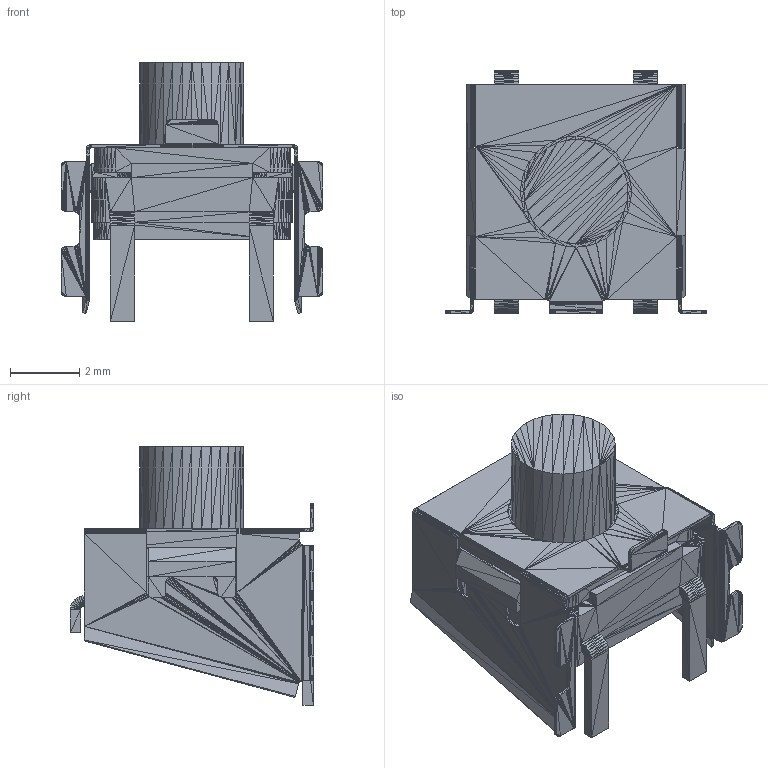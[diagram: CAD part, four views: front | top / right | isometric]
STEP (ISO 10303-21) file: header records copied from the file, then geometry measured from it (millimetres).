
FILE_DESCRIPTION(/* description */ (''),/* implementation_level */ '2;1');
FILE_NAME(/* name */ 'TSSE 623 x-RA.stp',/* time_stamp */ '2020-7-16T08:56:12.4891637',/* author */ ('knitter-switch'),/* organization */ (''),/* preprocessor_version */ 'InStep v2',/* originating_system */ 'InStep V2.3',/* authorisation */ '');
FILE_SCHEMA (('AUTOMOTIVE_DESIGN { 1 0 10303 214 1 1 1 1 }'));
Length unit declared in the file: centimetre
Products named in the file (1): None
Bounding box: 7.55 x 7.02 x 7.45 mm (x, y, z)
Volume: 113.5 mm3; surface area: 308.8 mm2
Topology: 1 solids, 1 shells, 4002 faces, 6003 edges, 1995 vertices
Faces by surface type: plane 4002
Entity records: 58084 total; most frequent: ORIENTED_EDGE 12006, DIRECTION 7023, LINE 6003, EDGE_CURVE 6003, AXIS2_PLACEMENT_3D 4003, EDGE_LOOP 4002, FACE_OUTER_BOUND 4002, PLANE 4002
